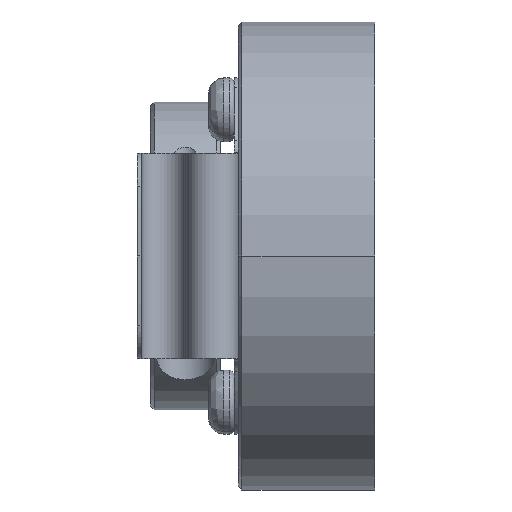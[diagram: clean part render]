
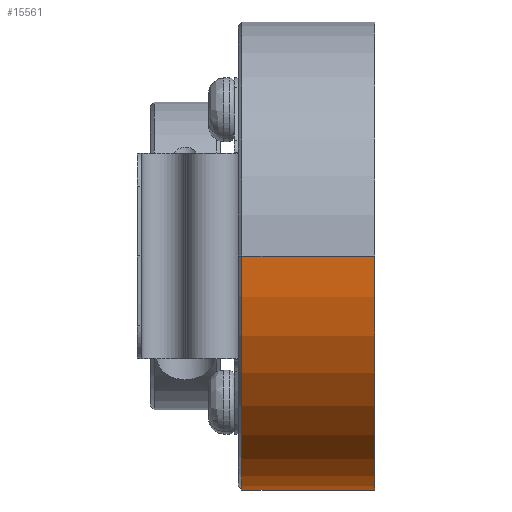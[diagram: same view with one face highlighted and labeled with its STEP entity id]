
A CAD part, front view. The second image highlights one B-rep face of the part: STEP entity #15561.
In plain terms, the highlighted cylindrical face has radius 18.25 mm (diameter 36.5 mm), a partial arc.
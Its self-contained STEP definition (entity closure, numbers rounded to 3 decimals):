
#245 = CARTESIAN_POINT ( 'NONE',  ( -1000., 18.25, 0. ) ) ;
#463 = ORIENTED_EDGE ( 'NONE', *, *, #5632, .T. ) ;
#493 = ORIENTED_EDGE ( 'NONE', *, *, #4397, .T. ) ;
#840 = CARTESIAN_POINT ( 'NONE',  ( -1.3, -18.25, 0. ) ) ;
#1679 = ORIENTED_EDGE ( 'NONE', *, *, #9734, .F. ) ;
#1739 = DIRECTION ( 'NONE',  ( -1., 0., 0. ) ) ;
#1801 = CYLINDRICAL_SURFACE ( 'NONE', #15576, 18.25 ) ;
#2150 = LINE ( 'NONE', #3369, #10280 ) ;
#2239 = VERTEX_POINT ( 'NONE', #20552 ) ;
#3369 = CARTESIAN_POINT ( 'NONE',  ( -1000., -18.25, 0. ) ) ;
#3382 = ORIENTED_EDGE ( 'NONE', *, *, #14613, .T. ) ;
#4280 = DIRECTION ( 'NONE',  ( 0., 1., 0. ) ) ;
#4397 = EDGE_CURVE ( 'NONE', #14191, #2239, #2150, .T. ) ;
#5196 = CARTESIAN_POINT ( 'NONE',  ( -11.65, 0., 0. ) ) ;
#5632 = EDGE_CURVE ( 'NONE', #11565, #14191, #13152, .T. ) ;
#6639 = AXIS2_PLACEMENT_3D ( 'NONE', #13906, #14118, #4280 ) ;
#7925 = FACE_OUTER_BOUND ( 'NONE', #12005, .T. ) ;
#8847 = VERTEX_POINT ( 'NONE', #19712 ) ;
#9409 = LINE ( 'NONE', #245, #19947 ) ;
#9734 = EDGE_CURVE ( 'NONE', #11565, #8847, #9409, .T. ) ;
#10280 = VECTOR ( 'NONE', #1739, 1000. ) ;
#11098 = CIRCLE ( 'NONE', #18008, 18.25 ) ;
#11565 = VERTEX_POINT ( 'NONE', #16411 ) ;
#12005 = EDGE_LOOP ( 'NONE', ( #463, #493, #3382, #1679 ) ) ;
#13086 = DIRECTION ( 'NONE',  ( -1., 0., 0. ) ) ;
#13152 = CIRCLE ( 'NONE', #6639, 18.25 ) ;
#13906 = CARTESIAN_POINT ( 'NONE',  ( -1.3, 0., 0. ) ) ;
#14118 = DIRECTION ( 'NONE',  ( -1., 0., 0. ) ) ;
#14191 = VERTEX_POINT ( 'NONE', #840 ) ;
#14613 = EDGE_CURVE ( 'NONE', #2239, #8847, #11098, .T. ) ;
#14970 = DIRECTION ( 'NONE',  ( 0., 1., 0. ) ) ;
#15082 = DIRECTION ( 'NONE',  ( -1., 0., 0. ) ) ;
#15353 = DIRECTION ( 'NONE',  ( 0., 1., 0. ) ) ;
#15561 = ADVANCED_FACE ( 'NONE', ( #7925 ), #1801, .T. ) ;
#15576 = AXIS2_PLACEMENT_3D ( 'NONE', #18454, #15082, #15353 ) ;
#16411 = CARTESIAN_POINT ( 'NONE',  ( -1.3, 18.25, 0. ) ) ;
#18008 = AXIS2_PLACEMENT_3D ( 'NONE', #5196, #18297, #14970 ) ;
#18297 = DIRECTION ( 'NONE',  ( 1., 0., 0. ) ) ;
#18454 = CARTESIAN_POINT ( 'NONE',  ( -1000., 0., 0. ) ) ;
#19712 = CARTESIAN_POINT ( 'NONE',  ( -11.65, 18.25, 0. ) ) ;
#19947 = VECTOR ( 'NONE', #13086, 1000. ) ;
#20552 = CARTESIAN_POINT ( 'NONE',  ( -11.65, -18.25, 0. ) ) ;
